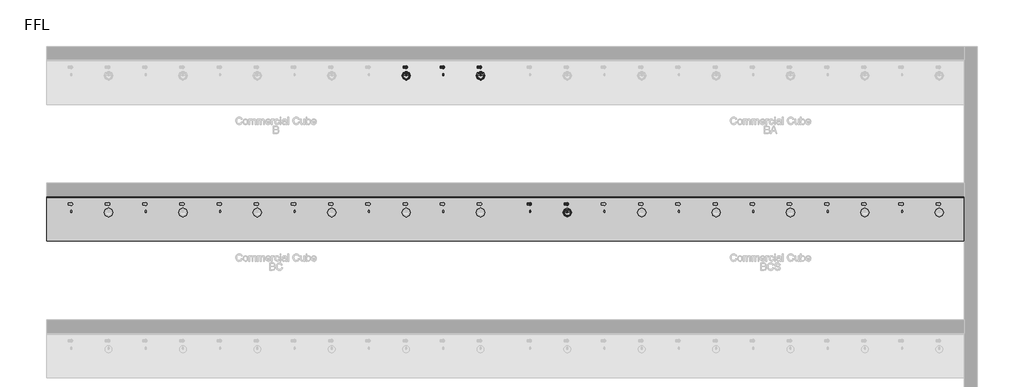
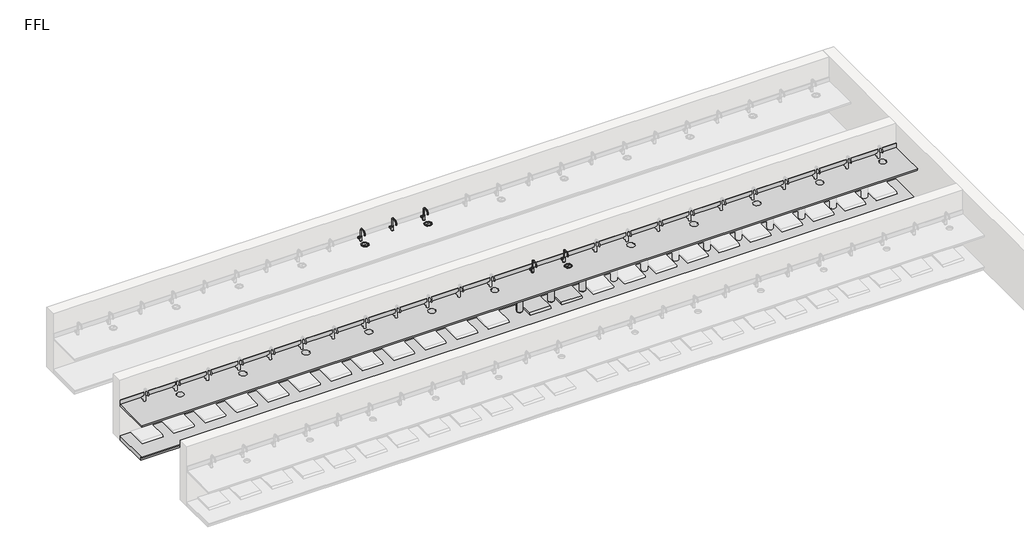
# One storey, part 6 of 14: 16 flow terminals, 2 furniture elements.
"""IFC4 building model written with IfcOpenShell, lengths in millimetres."""

from ifc_helpers import new_model, si_unit, frame, origin, place, context, project, spatial, polyline, circle_curve, transform, mapped, element, save
from ifc_brep_helpers import plane_surface, revolved_surface, advanced_brep
from components import flow_terminal_100_people_gold_0dc622b1, bcs_and_bc_6de74493, bright_chrome_cb32e6d9, bright_chrome_743c02cf, co2_gas_cylinder_20234e14, generic_plinth_900mm_f287d53f

model = new_model("IFC4")

# Units and contexts
model_context = context("Model", 3, world=origin())
ifc_project = project(units=[si_unit("LENGTHUNIT", "METRE", prefix="MILLI")], contexts=[model_context])

# Site, building, storey
site = spatial("IfcSite", under=ifc_project)
building = spatial("IfcBuilding", under=site)
storey = spatial("IfcBuildingStorey", under=building, Name="FFL", Elevation=0.0)

# Flow terminals
placement = place(None, origin())
flow_terminal_100_people_gold_shape = flow_terminal_100_people_gold_0dc622b1(model_context)
element("IfcFlowTerminal", 1, ObjectType="PlumFixt_Zip Commercial_Cube_B : 100 People - Nickel", at=placement, inside=storey, context=model_context, shape_type="MappedRepresentation", body=[
    mapped(flow_terminal_100_people_gold_shape, transform((279.2647071, 7582.7393304, 0.0), x_axis=(1.0, 0.0, 0.0), y_axis=(0.0, 1.0, 0.0), z_axis=(0.0, 0.0, 1.0))),
])
element("IfcFlowTerminal", 2, ObjectType="PlumFixt_Zip Commercial_Cube_B : 100 People - Platinum", at=placement, inside=storey, context=model_context, shape_type="MappedRepresentation", body=[
    mapped(flow_terminal_100_people_gold_shape, transform((1029.2647071, 7582.7393304, 0.0), x_axis=(1.0, 0.0, 0.0), y_axis=(0.0, 1.0, 0.0), z_axis=(0.0, 0.0, 1.0))),
])
element("IfcFlowTerminal", 3, ObjectType="PlumFixt_Zip Commercial_Cube_B : 100 People - Rose Gold", at=placement, inside=storey, context=model_context, shape_type="MappedRepresentation", body=[
    mapped(flow_terminal_100_people_gold_shape, transform((1779.2647071, 7582.7393304, 0.0), x_axis=(1.0, 0.0, 0.0), y_axis=(0.0, 1.0, 0.0), z_axis=(0.0, 0.0, 1.0))),
])
bcs_and_bc_shape = bcs_and_bc_6de74493(model_context)
element("IfcFlowTerminal", 4, ObjectType="z_PlumFixt_Zip_Vent Tray : BCS and BC", at=placement, inside=storey, context=model_context, shape_type="MappedRepresentation", body=[
    mapped(bcs_and_bc_shape, transform((2779.2647071, 4945.7393304, 100.0), x_axis=(1.0, 0.0, 0.0), y_axis=(0.0, 1.0, 0.0), z_axis=(0.0, 0.0, 1.0))),
])
element("IfcFlowTerminal", 5, ObjectType="z_PlumFixt_Zip_Vent Tray : BCS and BC", at=placement, inside=storey, context=model_context, shape_type="MappedRepresentation", body=[
    mapped(bcs_and_bc_shape, transform((3529.2647071, 4945.7393304, 100.0), x_axis=(1.0, 0.0, 0.0), y_axis=(0.0, 1.0, 0.0), z_axis=(0.0, 0.0, 1.0))),
])
bright_chrome_shape = bright_chrome_cb32e6d9(model_context)
element("IfcFlowTerminal", 6, ObjectType="z_PlumFixt_Zip_Cube : Bright Chrome", at=placement, inside=storey, context=model_context, shape_type="MappedRepresentation", body=[
    mapped(bright_chrome_shape, transform((2762.2647071, 4850.7393304, 900.0), x_axis=(1.0000000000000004, 0.0, 0.0), y_axis=(0.0, 1.0000000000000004, 0.0), z_axis=(0.0, 0.0, 1.0))),
])
bright_chrome_2_shape = bright_chrome_743c02cf(model_context)
element("IfcFlowTerminal", 7, ObjectType="z_PlumFixt_Zip_Font : Brushed Chrome", at=placement, inside=storey, context=model_context, shape_type="MappedRepresentation", body=[
    mapped(bright_chrome_2_shape, transform((279.2647071, 7511.2393304, 900.0), x_axis=(1.0000000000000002, 0.0, 0.0), y_axis=(0.0, 1.0000000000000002, 0.0), z_axis=(0.0, 0.0, 1.0))),
])
element("IfcFlowTerminal", 8, ObjectType="z_PlumFixt_Zip_Font : Brushed Chrome", at=placement, inside=storey, context=model_context, shape_type="MappedRepresentation", body=[
    mapped(bright_chrome_2_shape, transform((1779.2647071, 7511.2393304, 900.0), x_axis=(1.0000000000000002, 0.0, 0.0), y_axis=(0.0, 1.0000000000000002, 0.0), z_axis=(0.0, 0.0, 1.0))),
])
element("IfcFlowTerminal", 9, ObjectType="z_PlumFixt_Zip_Font : Brushed Chrome", at=placement, inside=storey, context=model_context, shape_type="MappedRepresentation", body=[
    mapped(bright_chrome_2_shape, transform((3529.2647071, 4751.2393304, 900.0), x_axis=(1.0000000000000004, 0.0, 0.0), y_axis=(0.0, 1.0000000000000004, 0.0), z_axis=(0.0, 0.0, 1.0))),
])
element("IfcFlowTerminal", 10, ObjectType="z_PlumFixt_Zip_Cube : Brushed Chrome", at=placement, inside=storey, context=model_context, shape_type="MappedRepresentation", body=[
    mapped(bright_chrome_shape, transform((3512.2647071, 4850.7393304, 900.0), x_axis=(1.0000000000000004, 0.0, 0.0), y_axis=(0.0, 1.0000000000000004, 0.0), z_axis=(0.0, 0.0, 1.0))),
])
co2_gas_cylinder_shape = co2_gas_cylinder_20234e14(model_context)
element("IfcFlowTerminal", 11, ObjectType="z_PlumFixt_Zip_CO2 Gas Cylinder : CO2 Gas Cylinder", at=placement, inside=storey, context=model_context, shape_type="MappedRepresentation", body=[
    mapped(co2_gas_cylinder_shape, transform((2412.2647071, 4750.7393304, 100.0), x_axis=(-1.0, 0.0, 0.0), y_axis=(0.0, -1.0, 0.0), z_axis=(0.0, 0.0, 1.0))),
])
element("IfcFlowTerminal", 12, ObjectType="z_PlumFixt_Zip_CO2 Gas Cylinder : CO2 Gas Cylinder", at=placement, inside=storey, context=model_context, shape_type="MappedRepresentation", body=[
    mapped(co2_gas_cylinder_shape, transform((3162.2647071, 4750.7393304, 100.0), x_axis=(-1.0, 0.0, 0.0), y_axis=(0.0, -1.0, 0.0), z_axis=(0.0, 0.0, 1.0))),
])
element("IfcFlowTerminal", 13, ObjectType="z_PlumFixt_Zip_CO2 Gas Cylinder : CO2 Gas Cylinder", at=placement, inside=storey, context=model_context, shape_type="MappedRepresentation", body=[
    mapped(co2_gas_cylinder_shape, transform((3912.2647071, 4750.7393304, 100.0), x_axis=(-1.0, 0.0, 0.0), y_axis=(0.0, -1.0, 0.0), z_axis=(0.0, 0.0, 1.0))),
])
element("IfcFlowTerminal", 14, ObjectType="z_PlumFixt_Zip_Cube : Nickel", at=placement, inside=storey, context=model_context, shape_type="MappedRepresentation", body=[
    mapped(bright_chrome_shape, transform((262.2647071, 7610.7393304, 900.0), x_axis=(1.0000000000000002, 0.0, 0.0), y_axis=(0.0, 1.0000000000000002, 0.0), z_axis=(0.0, 0.0, 1.0))),
])
element("IfcFlowTerminal", 15, ObjectType="z_PlumFixt_Zip_Cube : Platinum", at=placement, inside=storey, context=model_context, shape_type="MappedRepresentation", body=[
    mapped(bright_chrome_shape, transform((1012.2647071, 7610.7393304, 900.0), x_axis=(1.0000000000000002, 0.0, 0.0), y_axis=(0.0, 1.0000000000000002, 0.0), z_axis=(0.0, 0.0, 1.0))),
])
element("IfcFlowTerminal", 16, ObjectType="z_PlumFixt_Zip_Cube : Rose Gold", at=placement, inside=storey, context=model_context, shape_type="MappedRepresentation", body=[
    mapped(bright_chrome_shape, transform((1762.2647071, 7610.7393304, 900.0), x_axis=(1.0000000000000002, 0.0, 0.0), y_axis=(0.0, 1.0000000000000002, 0.0), z_axis=(0.0, 0.0, 1.0))),
])

# Furniture
element("IfcFurniture", 17, ObjectType="Counter Top : 900mm Depth", at=placement, inside=storey, context=model_context, shape_type="AdvancedBrep", body=[
    advanced_brep(
    [(-6969.7352929, 4188.2393304, 900.0), (11530.2647071, 4188.2393304, 900.0), (11530.2647071, 5069.1893304, 900.0), (-6969.7352929, 5069.1893304, 900.0), (11006.2647071, 4938.2393304, 900.0), (11054.2647071, 4938.2393304, 900.0), (10962.0647071, 4766.2393304, 900.0), (11098.4647071, 4766.2393304, 900.0), (10256.2647071, 4938.2393304, 900.0), (10304.2647071, 4938.2393304, 900.0), (9506.2647071, 4938.2393304, 900.0), (9554.2647071, 4938.2393304, 900.0), (9462.0647071, 4766.2393304, 900.0), (9598.4647071, 4766.2393304, 900.0), (8756.2647071, 4938.2393304, 900.0), (8804.2647071, 4938.2393304, 900.0), (8006.2647071, 4938.2393304, 900.0), (8054.2647071, 4938.2393304, 900.0), (7962.0647071, 4766.2393304, 900.0), (8098.4647071, 4766.2393304, 900.0), (7256.2647071, 4938.2393304, 900.0), (7304.2647071, 4938.2393304, 900.0), (6506.2647071, 4938.2393304, 900.0), (6554.2647071, 4938.2393304, 900.0), (6462.0647071, 4766.2393304, 900.0), (6598.4647071, 4766.2393304, 900.0), (5756.2647071, 4938.2393304, 900.0), (5804.2647071, 4938.2393304, 900.0), (5006.2647071, 4938.2393304, 900.0), (5054.2647071, 4938.2393304, 900.0), (4962.0647071, 4766.2393304, 900.0), (5098.4647071, 4766.2393304, 900.0), (4256.2647071, 4938.2393304, 900.0), (4304.2647071, 4938.2393304, 900.0), (3506.2647071, 4938.2393304, 900.0), (3554.2647071, 4938.2393304, 900.0), (3462.0647071, 4766.2393304, 900.0), (3598.4647071, 4766.2393304, 900.0), (2756.2647071, 4938.2393304, 900.0), (2804.2647071, 4938.2393304, 900.0), (1756.2647071, 4938.2393304, 900.0), (1804.2647071, 4938.2393304, 900.0), (1712.0647071, 4766.2393304, 900.0), (1848.4647071, 4766.2393304, 900.0), (1006.2647071, 4938.2393304, 900.0), (1054.2647071, 4938.2393304, 900.0), (256.2647071, 4938.2393304, 900.0), (304.2647071, 4938.2393304, 900.0), (212.0647071, 4766.2393304, 900.0), (348.4647071, 4766.2393304, 900.0), (-493.7352929, 4938.2393304, 900.0), (-445.7352929, 4938.2393304, 900.0), (-1243.7352929, 4938.2393304, 900.0), (-1195.7352929, 4938.2393304, 900.0), (-1287.9352929, 4766.2393304, 900.0), (-1151.5352929, 4766.2393304, 900.0), (-1993.7352929, 4938.2393304, 900.0), (-1945.7352929, 4938.2393304, 900.0), (-2743.7352929, 4938.2393304, 900.0), (-2695.7352929, 4938.2393304, 900.0), (-2787.9352929, 4766.2393304, 900.0), (-2651.5352929, 4766.2393304, 900.0), (-3493.7352929, 4938.2393304, 900.0), (-3445.7352929, 4938.2393304, 900.0), (-4243.7352929, 4938.2393304, 900.0), (-4195.7352929, 4938.2393304, 900.0), (-4287.9352929, 4766.2393304, 900.0), (-4151.5352929, 4766.2393304, 900.0), (-4993.7352929, 4938.2393304, 900.0), (-4945.7352929, 4938.2393304, 900.0), (-5743.7352929, 4938.2393304, 900.0), (-5695.7352929, 4938.2393304, 900.0), (-5787.9352929, 4766.2393304, 900.0), (-5651.5352929, 4766.2393304, 900.0), (-6493.7352929, 4938.2393304, 900.0), (-6445.7352929, 4938.2393304, 900.0), (11530.2647071, 5088.2393304, 860.0), (11530.2647071, 4188.2393304, 860.0), (-6969.7352929, 4188.2393304, 860.0), (-6969.7352929, 5088.2393304, 860.0), (11054.2647071, 4938.2393304, 860.0), (11006.2647071, 4938.2393304, 860.0), (11098.4647071, 4766.2393304, 860.0), (10962.0647071, 4766.2393304, 860.0), (10304.2647071, 4938.2393304, 860.0), (10256.2647071, 4938.2393304, 860.0), (9554.2647071, 4938.2393304, 860.0), (9506.2647071, 4938.2393304, 860.0), (9598.4647071, 4766.2393304, 860.0), (9462.0647071, 4766.2393304, 860.0), (8804.2647071, 4938.2393304, 860.0), (8756.2647071, 4938.2393304, 860.0), (8054.2647071, 4938.2393304, 860.0), (8006.2647071, 4938.2393304, 860.0), (8098.4647071, 4766.2393304, 860.0), (7962.0647071, 4766.2393304, 860.0), (7304.2647071, 4938.2393304, 860.0), (7256.2647071, 4938.2393304, 860.0), (6554.2647071, 4938.2393304, 860.0), (6506.2647071, 4938.2393304, 860.0), (6598.4647071, 4766.2393304, 860.0), (6462.0647071, 4766.2393304, 860.0), (5804.2647071, 4938.2393304, 860.0), (5756.2647071, 4938.2393304, 860.0), (5054.2647071, 4938.2393304, 860.0), (5006.2647071, 4938.2393304, 860.0), (5098.4647071, 4766.2393304, 860.0), (4962.0647071, 4766.2393304, 860.0), (4304.2647071, 4938.2393304, 860.0), (4256.2647071, 4938.2393304, 860.0), (3554.2647071, 4938.2393304, 860.0), (3506.2647071, 4938.2393304, 860.0), (3598.4647071, 4766.2393304, 860.0), (3462.0647071, 4766.2393304, 860.0), (2804.2647071, 4938.2393304, 860.0), (2756.2647071, 4938.2393304, 860.0), (1804.2647071, 4938.2393304, 860.0), (1756.2647071, 4938.2393304, 860.0), (1848.4647071, 4766.2393304, 860.0), (1712.0647071, 4766.2393304, 860.0), (1054.2647071, 4938.2393304, 860.0), (1006.2647071, 4938.2393304, 860.0), (304.2647071, 4938.2393304, 860.0), (256.2647071, 4938.2393304, 860.0), (348.4647071, 4766.2393304, 860.0), (212.0647071, 4766.2393304, 860.0), (-445.7352929, 4938.2393304, 860.0), (-493.7352929, 4938.2393304, 860.0), (-1195.7352929, 4938.2393304, 860.0), (-1243.7352929, 4938.2393304, 860.0), (-1151.5352929, 4766.2393304, 860.0), (-1287.9352929, 4766.2393304, 860.0), (-1945.7352929, 4938.2393304, 860.0), (-1993.7352929, 4938.2393304, 860.0), (-2695.7352929, 4938.2393304, 860.0), (-2743.7352929, 4938.2393304, 860.0), (-2651.5352929, 4766.2393304, 860.0), (-2787.9352929, 4766.2393304, 860.0), (-3445.7352929, 4938.2393304, 860.0), (-3493.7352929, 4938.2393304, 860.0), (-4195.7352929, 4938.2393304, 860.0), (-4243.7352929, 4938.2393304, 860.0), (-4151.5352929, 4766.2393304, 860.0), (-4287.9352929, 4766.2393304, 860.0), (-4945.7352929, 4938.2393304, 860.0), (-4993.7352929, 4938.2393304, 860.0), (-5695.7352929, 4938.2393304, 860.0), (-5743.7352929, 4938.2393304, 860.0), (-5651.5352929, 4766.2393304, 860.0), (-5787.9352929, 4766.2393304, 860.0), (-6445.7352929, 4938.2393304, 860.0), (-6493.7352929, 4938.2393304, 860.0), (-6969.7352929, 5088.2393304, 1001.6), (11530.2647071, 5088.2393304, 1001.6), (-6969.7352929, 5069.1893304, 1001.6), (11530.2647071, 5069.1893304, 1001.6)],
    [
        (0, 1),
        (1, 2),
        (2, 3),
        (3, 0),
        (4, 5, circle_curve(frame((11030.2647071, 4938.2393304, 900.0), z_axis=(0.0, 0.0, -1.0), x_axis=(-1.0000000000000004, 0.0, 0.0)), 24.0)),
        (5, 4, circle_curve(frame((11030.2647071, 4938.2393304, 900.0), z_axis=(0.0, 0.0, -1.0), x_axis=(-1.0000000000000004, 0.0, 0.0)), 24.0)),
        (6, 7, circle_curve(frame((11030.2647071, 4766.2393304, 900.0), z_axis=(0.0, 0.0, -1.0), x_axis=(-1.0000000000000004, 0.0, 0.0)), 68.2)),
        (7, 6, circle_curve(frame((11030.2647071, 4766.2393304, 900.0), z_axis=(0.0, 0.0, -1.0), x_axis=(-1.0000000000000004, 0.0, 0.0)), 68.2)),
        (8, 9, circle_curve(frame((10280.2647071, 4938.2393304, 900.0), z_axis=(0.0, 0.0, -1.0), x_axis=(-1.0000000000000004, 0.0, 0.0)), 24.0)),
        (9, 8, circle_curve(frame((10280.2647071, 4938.2393304, 900.0), z_axis=(0.0, 0.0, -1.0), x_axis=(-1.0000000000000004, 0.0, 0.0)), 24.0)),
        (10, 11, circle_curve(frame((9530.2647071, 4938.2393304, 900.0), z_axis=(0.0, 0.0, -1.0), x_axis=(-1.0000000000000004, 0.0, 0.0)), 24.0)),
        (11, 10, circle_curve(frame((9530.2647071, 4938.2393304, 900.0), z_axis=(0.0, 0.0, -1.0), x_axis=(-1.0000000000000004, 0.0, 0.0)), 24.0)),
        (12, 13, circle_curve(frame((9530.2647071, 4766.2393304, 900.0), z_axis=(0.0, 0.0, -1.0), x_axis=(-1.0000000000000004, 0.0, 0.0)), 68.2)),
        (13, 12, circle_curve(frame((9530.2647071, 4766.2393304, 900.0), z_axis=(0.0, 0.0, -1.0), x_axis=(-1.0000000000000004, 0.0, 0.0)), 68.2)),
        (14, 15, circle_curve(frame((8780.2647071, 4938.2393304, 900.0), z_axis=(0.0, 0.0, -1.0), x_axis=(-1.0000000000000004, 0.0, 0.0)), 24.0)),
        (15, 14, circle_curve(frame((8780.2647071, 4938.2393304, 900.0), z_axis=(0.0, 0.0, -1.0), x_axis=(-1.0000000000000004, 0.0, 0.0)), 24.0)),
        (16, 17, circle_curve(frame((8030.2647071, 4938.2393304, 900.0), z_axis=(0.0, 0.0, -1.0), x_axis=(-1.0000000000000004, 0.0, 0.0)), 24.0)),
        (17, 16, circle_curve(frame((8030.2647071, 4938.2393304, 900.0), z_axis=(0.0, 0.0, -1.0), x_axis=(-1.0000000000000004, 0.0, 0.0)), 24.0)),
        (18, 19, circle_curve(frame((8030.2647071, 4766.2393304, 900.0), z_axis=(0.0, 0.0, -1.0), x_axis=(-1.0000000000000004, 0.0, 0.0)), 68.2)),
        (19, 18, circle_curve(frame((8030.2647071, 4766.2393304, 900.0), z_axis=(0.0, 0.0, -1.0), x_axis=(-1.0000000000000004, 0.0, 0.0)), 68.2)),
        (20, 21, circle_curve(frame((7280.2647071, 4938.2393304, 900.0), z_axis=(0.0, 0.0, -1.0), x_axis=(-1.0000000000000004, 0.0, 0.0)), 24.0)),
        (21, 20, circle_curve(frame((7280.2647071, 4938.2393304, 900.0), z_axis=(0.0, 0.0, -1.0), x_axis=(-1.0000000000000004, 0.0, 0.0)), 24.0)),
        (22, 23, circle_curve(frame((6530.2647071, 4938.2393304, 900.0), z_axis=(0.0, 0.0, -1.0), x_axis=(-1.0000000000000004, 0.0, 0.0)), 24.0)),
        (23, 22, circle_curve(frame((6530.2647071, 4938.2393304, 900.0), z_axis=(0.0, 0.0, -1.0), x_axis=(-1.0000000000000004, 0.0, 0.0)), 24.0)),
        (24, 25, circle_curve(frame((6530.2647071, 4766.2393304, 900.0), z_axis=(0.0, 0.0, -1.0), x_axis=(-1.0000000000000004, 0.0, 0.0)), 68.2)),
        (25, 24, circle_curve(frame((6530.2647071, 4766.2393304, 900.0), z_axis=(0.0, 0.0, -1.0), x_axis=(-1.0000000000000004, 0.0, 0.0)), 68.2)),
        (26, 27, circle_curve(frame((5780.2647071, 4938.2393304, 900.0), z_axis=(0.0, 0.0, -1.0), x_axis=(-1.0000000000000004, 0.0, 0.0)), 24.0)),
        (27, 26, circle_curve(frame((5780.2647071, 4938.2393304, 900.0), z_axis=(0.0, 0.0, -1.0), x_axis=(-1.0000000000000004, 0.0, 0.0)), 24.0)),
        (28, 29, circle_curve(frame((5030.2647071, 4938.2393304, 900.0), z_axis=(0.0, 0.0, -1.0), x_axis=(-1.0000000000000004, 0.0, 0.0)), 24.0)),
        (29, 28, circle_curve(frame((5030.2647071, 4938.2393304, 900.0), z_axis=(0.0, 0.0, -1.0), x_axis=(-1.0000000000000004, 0.0, 0.0)), 24.0)),
        (30, 31, circle_curve(frame((5030.2647071, 4766.2393304, 900.0), z_axis=(0.0, 0.0, -1.0), x_axis=(-1.0000000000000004, 0.0, 0.0)), 68.2)),
        (31, 30, circle_curve(frame((5030.2647071, 4766.2393304, 900.0), z_axis=(0.0, 0.0, -1.0), x_axis=(-1.0000000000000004, 0.0, 0.0)), 68.2)),
        (32, 33, circle_curve(frame((4280.2647071, 4938.2393304, 900.0), z_axis=(0.0, 0.0, -1.0), x_axis=(-1.0000000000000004, 0.0, 0.0)), 24.0)),
        (33, 32, circle_curve(frame((4280.2647071, 4938.2393304, 900.0), z_axis=(0.0, 0.0, -1.0), x_axis=(-1.0000000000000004, 0.0, 0.0)), 24.0)),
        (34, 35, circle_curve(frame((3530.2647071, 4938.2393304, 900.0), z_axis=(0.0, 0.0, -1.0), x_axis=(-1.0000000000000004, 0.0, 0.0)), 24.0)),
        (35, 34, circle_curve(frame((3530.2647071, 4938.2393304, 900.0), z_axis=(0.0, 0.0, -1.0), x_axis=(-1.0000000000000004, 0.0, 0.0)), 24.0)),
        (36, 37, circle_curve(frame((3530.2647071, 4766.2393304, 900.0), z_axis=(0.0, 0.0, -1.0), x_axis=(-1.0000000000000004, 0.0, 0.0)), 68.2)),
        (37, 36, circle_curve(frame((3530.2647071, 4766.2393304, 900.0), z_axis=(0.0, 0.0, -1.0), x_axis=(-1.0000000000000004, 0.0, 0.0)), 68.2)),
        (38, 39, circle_curve(frame((2780.2647071, 4938.2393304, 900.0), z_axis=(0.0, 0.0, -1.0), x_axis=(-1.0000000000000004, 0.0, 0.0)), 24.0)),
        (39, 38, circle_curve(frame((2780.2647071, 4938.2393304, 900.0), z_axis=(0.0, 0.0, -1.0), x_axis=(-1.0000000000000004, 0.0, 0.0)), 24.0)),
        (40, 41, circle_curve(frame((1780.2647071, 4938.2393304, 900.0), z_axis=(0.0, 0.0, -1.0), x_axis=(-1.0000000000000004, 0.0, 0.0)), 24.0)),
        (41, 40, circle_curve(frame((1780.2647071, 4938.2393304, 900.0), z_axis=(0.0, 0.0, -1.0), x_axis=(-1.0000000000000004, 0.0, 0.0)), 24.0)),
        (42, 43, circle_curve(frame((1780.2647071, 4766.2393304, 900.0), z_axis=(0.0, 0.0, -1.0), x_axis=(-1.0000000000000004, 0.0, 0.0)), 68.2)),
        (43, 42, circle_curve(frame((1780.2647071, 4766.2393304, 900.0), z_axis=(0.0, 0.0, -1.0), x_axis=(-1.0000000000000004, 0.0, 0.0)), 68.2)),
        (44, 45, circle_curve(frame((1030.2647071, 4938.2393304, 900.0), z_axis=(0.0, 0.0, -1.0), x_axis=(-1.0000000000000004, 0.0, 0.0)), 24.0)),
        (45, 44, circle_curve(frame((1030.2647071, 4938.2393304, 900.0), z_axis=(0.0, 0.0, -1.0), x_axis=(-1.0000000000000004, 0.0, 0.0)), 24.0)),
        (46, 47, circle_curve(frame((280.2647071, 4938.2393304, 900.0), z_axis=(0.0, 0.0, -1.0), x_axis=(-1.0000000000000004, 0.0, 0.0)), 24.0)),
        (47, 46, circle_curve(frame((280.2647071, 4938.2393304, 900.0), z_axis=(0.0, 0.0, -1.0), x_axis=(-1.0000000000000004, 0.0, 0.0)), 24.0)),
        (48, 49, circle_curve(frame((280.2647071, 4766.2393304, 900.0), z_axis=(0.0, 0.0, -1.0), x_axis=(-1.0000000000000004, 0.0, 0.0)), 68.2)),
        (49, 48, circle_curve(frame((280.2647071, 4766.2393304, 900.0), z_axis=(0.0, 0.0, -1.0), x_axis=(-1.0000000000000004, 0.0, 0.0)), 68.2)),
        (50, 51, circle_curve(frame((-469.7352929, 4938.2393304, 900.0), z_axis=(0.0, 0.0, -1.0), x_axis=(-1.0000000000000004, 0.0, 0.0)), 24.0)),
        (51, 50, circle_curve(frame((-469.7352929, 4938.2393304, 900.0), z_axis=(0.0, 0.0, -1.0), x_axis=(-1.0000000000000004, 0.0, 0.0)), 24.0)),
        (52, 53, circle_curve(frame((-1219.7352929, 4938.2393304, 900.0), z_axis=(0.0, 0.0, -1.0), x_axis=(-1.0000000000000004, 0.0, 0.0)), 24.0)),
        (53, 52, circle_curve(frame((-1219.7352929, 4938.2393304, 900.0), z_axis=(0.0, 0.0, -1.0), x_axis=(-1.0000000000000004, 0.0, 0.0)), 24.0)),
        (54, 55, circle_curve(frame((-1219.7352929, 4766.2393304, 900.0), z_axis=(0.0, 0.0, -1.0), x_axis=(-1.0000000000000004, 0.0, 0.0)), 68.2)),
        (55, 54, circle_curve(frame((-1219.7352929, 4766.2393304, 900.0), z_axis=(0.0, 0.0, -1.0), x_axis=(-1.0000000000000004, 0.0, 0.0)), 68.2)),
        (56, 57, circle_curve(frame((-1969.7352929, 4938.2393304, 900.0), z_axis=(0.0, 0.0, -1.0), x_axis=(-1.0000000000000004, 0.0, 0.0)), 24.0)),
        (57, 56, circle_curve(frame((-1969.7352929, 4938.2393304, 900.0), z_axis=(0.0, 0.0, -1.0), x_axis=(-1.0000000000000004, 0.0, 0.0)), 24.0)),
        (58, 59, circle_curve(frame((-2719.7352929, 4938.2393304, 900.0), z_axis=(0.0, 0.0, -1.0), x_axis=(-1.0000000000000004, 0.0, 0.0)), 24.0)),
        (59, 58, circle_curve(frame((-2719.7352929, 4938.2393304, 900.0), z_axis=(0.0, 0.0, -1.0), x_axis=(-1.0000000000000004, 0.0, 0.0)), 24.0)),
        (60, 61, circle_curve(frame((-2719.7352929, 4766.2393304, 900.0), z_axis=(0.0, 0.0, -1.0), x_axis=(-1.0000000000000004, 0.0, 0.0)), 68.2)),
        (61, 60, circle_curve(frame((-2719.7352929, 4766.2393304, 900.0), z_axis=(0.0, 0.0, -1.0), x_axis=(-1.0000000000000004, 0.0, 0.0)), 68.2)),
        (62, 63, circle_curve(frame((-3469.7352929, 4938.2393304, 900.0), z_axis=(0.0, 0.0, -1.0), x_axis=(-1.0000000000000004, 0.0, 0.0)), 24.0)),
        (63, 62, circle_curve(frame((-3469.7352929, 4938.2393304, 900.0), z_axis=(0.0, 0.0, -1.0), x_axis=(-1.0000000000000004, 0.0, 0.0)), 24.0)),
        (64, 65, circle_curve(frame((-4219.7352929, 4938.2393304, 900.0), z_axis=(0.0, 0.0, -1.0), x_axis=(-1.0000000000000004, 0.0, 0.0)), 24.0)),
        (65, 64, circle_curve(frame((-4219.7352929, 4938.2393304, 900.0), z_axis=(0.0, 0.0, -1.0), x_axis=(-1.0000000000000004, 0.0, 0.0)), 24.0)),
        (66, 67, circle_curve(frame((-4219.7352929, 4766.2393304, 900.0), z_axis=(0.0, 0.0, -1.0), x_axis=(-1.0000000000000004, 0.0, 0.0)), 68.2)),
        (67, 66, circle_curve(frame((-4219.7352929, 4766.2393304, 900.0), z_axis=(0.0, 0.0, -1.0), x_axis=(-1.0000000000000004, 0.0, 0.0)), 68.2)),
        (68, 69, circle_curve(frame((-4969.7352929, 4938.2393304, 900.0), z_axis=(0.0, 0.0, -1.0), x_axis=(-1.0000000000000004, 0.0, 0.0)), 24.0)),
        (69, 68, circle_curve(frame((-4969.7352929, 4938.2393304, 900.0), z_axis=(0.0, 0.0, -1.0), x_axis=(-1.0000000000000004, 0.0, 0.0)), 24.0)),
        (70, 71, circle_curve(frame((-5719.7352929, 4938.2393304, 900.0), z_axis=(0.0, 0.0, -1.0), x_axis=(-1.0000000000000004, 0.0, 0.0)), 24.0)),
        (71, 70, circle_curve(frame((-5719.7352929, 4938.2393304, 900.0), z_axis=(0.0, 0.0, -1.0), x_axis=(-1.0000000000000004, 0.0, 0.0)), 24.0)),
        (72, 73, circle_curve(frame((-5719.7352929, 4766.2393304, 900.0), z_axis=(0.0, 0.0, -1.0), x_axis=(-1.0000000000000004, 0.0, 0.0)), 68.2)),
        (73, 72, circle_curve(frame((-5719.7352929, 4766.2393304, 900.0), z_axis=(0.0, 0.0, -1.0), x_axis=(-1.0000000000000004, 0.0, 0.0)), 68.2)),
        (74, 75, circle_curve(frame((-6469.7352929, 4938.2393304, 900.0), z_axis=(0.0, 0.0, -1.0), x_axis=(-1.0000000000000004, 0.0, 0.0)), 24.0)),
        (75, 74, circle_curve(frame((-6469.7352929, 4938.2393304, 900.0), z_axis=(0.0, 0.0, -1.0), x_axis=(-1.0000000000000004, 0.0, 0.0)), 24.0)),
        (76, 77),
        (77, 78),
        (78, 79),
        (79, 76),
        (80, 81, circle_curve(frame((11030.2647071, 4938.2393304, 860.0), z_axis=(0.0, 0.0, 1.0), x_axis=(-1.0000000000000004, 0.0, 0.0)), 24.0)),
        (81, 80, circle_curve(frame((11030.2647071, 4938.2393304, 860.0), z_axis=(0.0, 0.0, 1.0), x_axis=(-1.0000000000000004, 0.0, 0.0)), 24.0)),
        (82, 83, circle_curve(frame((11030.2647071, 4766.2393304, 860.0), z_axis=(0.0, 0.0, 1.0), x_axis=(-1.0000000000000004, 0.0, 0.0)), 68.2)),
        (83, 82, circle_curve(frame((11030.2647071, 4766.2393304, 860.0), z_axis=(0.0, 0.0, 1.0), x_axis=(-1.0000000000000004, 0.0, 0.0)), 68.2)),
        (84, 85, circle_curve(frame((10280.2647071, 4938.2393304, 860.0), z_axis=(0.0, 0.0, 1.0), x_axis=(-1.0000000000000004, 0.0, 0.0)), 24.0)),
        (85, 84, circle_curve(frame((10280.2647071, 4938.2393304, 860.0), z_axis=(0.0, 0.0, 1.0), x_axis=(-1.0000000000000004, 0.0, 0.0)), 24.0)),
        (86, 87, circle_curve(frame((9530.2647071, 4938.2393304, 860.0), z_axis=(0.0, 0.0, 1.0), x_axis=(-1.0000000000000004, 0.0, 0.0)), 24.0)),
        (87, 86, circle_curve(frame((9530.2647071, 4938.2393304, 860.0), z_axis=(0.0, 0.0, 1.0), x_axis=(-1.0000000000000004, 0.0, 0.0)), 24.0)),
        (88, 89, circle_curve(frame((9530.2647071, 4766.2393304, 860.0), z_axis=(0.0, 0.0, 1.0), x_axis=(-1.0000000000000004, 0.0, 0.0)), 68.2)),
        (89, 88, circle_curve(frame((9530.2647071, 4766.2393304, 860.0), z_axis=(0.0, 0.0, 1.0), x_axis=(-1.0000000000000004, 0.0, 0.0)), 68.2)),
        (90, 91, circle_curve(frame((8780.2647071, 4938.2393304, 860.0), z_axis=(0.0, 0.0, 1.0), x_axis=(-1.0000000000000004, 0.0, 0.0)), 24.0)),
        (91, 90, circle_curve(frame((8780.2647071, 4938.2393304, 860.0), z_axis=(0.0, 0.0, 1.0), x_axis=(-1.0000000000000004, 0.0, 0.0)), 24.0)),
        (92, 93, circle_curve(frame((8030.2647071, 4938.2393304, 860.0), z_axis=(0.0, 0.0, 1.0), x_axis=(-1.0000000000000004, 0.0, 0.0)), 24.0)),
        (93, 92, circle_curve(frame((8030.2647071, 4938.2393304, 860.0), z_axis=(0.0, 0.0, 1.0), x_axis=(-1.0000000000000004, 0.0, 0.0)), 24.0)),
        (94, 95, circle_curve(frame((8030.2647071, 4766.2393304, 860.0), z_axis=(0.0, 0.0, 1.0), x_axis=(-1.0000000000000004, 0.0, 0.0)), 68.2)),
        (95, 94, circle_curve(frame((8030.2647071, 4766.2393304, 860.0), z_axis=(0.0, 0.0, 1.0), x_axis=(-1.0000000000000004, 0.0, 0.0)), 68.2)),
        (96, 97, circle_curve(frame((7280.2647071, 4938.2393304, 860.0), z_axis=(0.0, 0.0, 1.0), x_axis=(-1.0000000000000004, 0.0, 0.0)), 24.0)),
        (97, 96, circle_curve(frame((7280.2647071, 4938.2393304, 860.0), z_axis=(0.0, 0.0, 1.0), x_axis=(-1.0000000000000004, 0.0, 0.0)), 24.0)),
        (98, 99, circle_curve(frame((6530.2647071, 4938.2393304, 860.0), z_axis=(0.0, 0.0, 1.0), x_axis=(-1.0000000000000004, 0.0, 0.0)), 24.0)),
        (99, 98, circle_curve(frame((6530.2647071, 4938.2393304, 860.0), z_axis=(0.0, 0.0, 1.0), x_axis=(-1.0000000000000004, 0.0, 0.0)), 24.0)),
        (100, 101, circle_curve(frame((6530.2647071, 4766.2393304, 860.0), z_axis=(0.0, 0.0, 1.0), x_axis=(-1.0000000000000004, 0.0, 0.0)), 68.2)),
        (101, 100, circle_curve(frame((6530.2647071, 4766.2393304, 860.0), z_axis=(0.0, 0.0, 1.0), x_axis=(-1.0000000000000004, 0.0, 0.0)), 68.2)),
        (102, 103, circle_curve(frame((5780.2647071, 4938.2393304, 860.0), z_axis=(0.0, 0.0, 1.0), x_axis=(-1.0000000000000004, 0.0, 0.0)), 24.0)),
        (103, 102, circle_curve(frame((5780.2647071, 4938.2393304, 860.0), z_axis=(0.0, 0.0, 1.0), x_axis=(-1.0000000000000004, 0.0, 0.0)), 24.0)),
        (104, 105, circle_curve(frame((5030.2647071, 4938.2393304, 860.0), z_axis=(0.0, 0.0, 1.0), x_axis=(-1.0000000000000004, 0.0, 0.0)), 24.0)),
        (105, 104, circle_curve(frame((5030.2647071, 4938.2393304, 860.0), z_axis=(0.0, 0.0, 1.0), x_axis=(-1.0000000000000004, 0.0, 0.0)), 24.0)),
        (106, 107, circle_curve(frame((5030.2647071, 4766.2393304, 860.0), z_axis=(0.0, 0.0, 1.0), x_axis=(-1.0000000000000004, 0.0, 0.0)), 68.2)),
        (107, 106, circle_curve(frame((5030.2647071, 4766.2393304, 860.0), z_axis=(0.0, 0.0, 1.0), x_axis=(-1.0000000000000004, 0.0, 0.0)), 68.2)),
        (108, 109, circle_curve(frame((4280.2647071, 4938.2393304, 860.0), z_axis=(0.0, 0.0, 1.0), x_axis=(-1.0000000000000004, 0.0, 0.0)), 24.0)),
        (109, 108, circle_curve(frame((4280.2647071, 4938.2393304, 860.0), z_axis=(0.0, 0.0, 1.0), x_axis=(-1.0000000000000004, 0.0, 0.0)), 24.0)),
        (110, 111, circle_curve(frame((3530.2647071, 4938.2393304, 860.0), z_axis=(0.0, 0.0, 1.0), x_axis=(-1.0000000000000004, 0.0, 0.0)), 24.0)),
        (111, 110, circle_curve(frame((3530.2647071, 4938.2393304, 860.0), z_axis=(0.0, 0.0, 1.0), x_axis=(-1.0000000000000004, 0.0, 0.0)), 24.0)),
        (112, 113, circle_curve(frame((3530.2647071, 4766.2393304, 860.0), z_axis=(0.0, 0.0, 1.0), x_axis=(-1.0000000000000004, 0.0, 0.0)), 68.2)),
        (113, 112, circle_curve(frame((3530.2647071, 4766.2393304, 860.0), z_axis=(0.0, 0.0, 1.0), x_axis=(-1.0000000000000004, 0.0, 0.0)), 68.2)),
        (114, 115, circle_curve(frame((2780.2647071, 4938.2393304, 860.0), z_axis=(0.0, 0.0, 1.0), x_axis=(-1.0000000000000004, 0.0, 0.0)), 24.0)),
        (115, 114, circle_curve(frame((2780.2647071, 4938.2393304, 860.0), z_axis=(0.0, 0.0, 1.0), x_axis=(-1.0000000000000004, 0.0, 0.0)), 24.0)),
        (116, 117, circle_curve(frame((1780.2647071, 4938.2393304, 860.0), z_axis=(0.0, 0.0, 1.0), x_axis=(-1.0000000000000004, 0.0, 0.0)), 24.0)),
        (117, 116, circle_curve(frame((1780.2647071, 4938.2393304, 860.0), z_axis=(0.0, 0.0, 1.0), x_axis=(-1.0000000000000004, 0.0, 0.0)), 24.0)),
        (118, 119, circle_curve(frame((1780.2647071, 4766.2393304, 860.0), z_axis=(0.0, 0.0, 1.0), x_axis=(-1.0000000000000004, 0.0, 0.0)), 68.2)),
        (119, 118, circle_curve(frame((1780.2647071, 4766.2393304, 860.0), z_axis=(0.0, 0.0, 1.0), x_axis=(-1.0000000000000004, 0.0, 0.0)), 68.2)),
        (120, 121, circle_curve(frame((1030.2647071, 4938.2393304, 860.0), z_axis=(0.0, 0.0, 1.0), x_axis=(-1.0000000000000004, 0.0, 0.0)), 24.0)),
        (121, 120, circle_curve(frame((1030.2647071, 4938.2393304, 860.0), z_axis=(0.0, 0.0, 1.0), x_axis=(-1.0000000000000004, 0.0, 0.0)), 24.0)),
        (122, 123, circle_curve(frame((280.2647071, 4938.2393304, 860.0), z_axis=(0.0, 0.0, 1.0), x_axis=(-1.0000000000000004, 0.0, 0.0)), 24.0)),
        (123, 122, circle_curve(frame((280.2647071, 4938.2393304, 860.0), z_axis=(0.0, 0.0, 1.0), x_axis=(-1.0000000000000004, 0.0, 0.0)), 24.0)),
        (124, 125, circle_curve(frame((280.2647071, 4766.2393304, 860.0), z_axis=(0.0, 0.0, 1.0), x_axis=(-1.0000000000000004, 0.0, 0.0)), 68.2)),
        (125, 124, circle_curve(frame((280.2647071, 4766.2393304, 860.0), z_axis=(0.0, 0.0, 1.0), x_axis=(-1.0000000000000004, 0.0, 0.0)), 68.2)),
        (126, 127, circle_curve(frame((-469.7352929, 4938.2393304, 860.0), z_axis=(0.0, 0.0, 1.0), x_axis=(-1.0000000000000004, 0.0, 0.0)), 24.0)),
        (127, 126, circle_curve(frame((-469.7352929, 4938.2393304, 860.0), z_axis=(0.0, 0.0, 1.0), x_axis=(-1.0000000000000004, 0.0, 0.0)), 24.0)),
        (128, 129, circle_curve(frame((-1219.7352929, 4938.2393304, 860.0), z_axis=(0.0, 0.0, 1.0), x_axis=(-1.0000000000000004, 0.0, 0.0)), 24.0)),
        (129, 128, circle_curve(frame((-1219.7352929, 4938.2393304, 860.0), z_axis=(0.0, 0.0, 1.0), x_axis=(-1.0000000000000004, 0.0, 0.0)), 24.0)),
        (130, 131, circle_curve(frame((-1219.7352929, 4766.2393304, 860.0), z_axis=(0.0, 0.0, 1.0), x_axis=(-1.0000000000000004, 0.0, 0.0)), 68.2)),
        (131, 130, circle_curve(frame((-1219.7352929, 4766.2393304, 860.0), z_axis=(0.0, 0.0, 1.0), x_axis=(-1.0000000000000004, 0.0, 0.0)), 68.2)),
        (132, 133, circle_curve(frame((-1969.7352929, 4938.2393304, 860.0), z_axis=(0.0, 0.0, 1.0), x_axis=(-1.0000000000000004, 0.0, 0.0)), 24.0)),
        (133, 132, circle_curve(frame((-1969.7352929, 4938.2393304, 860.0), z_axis=(0.0, 0.0, 1.0), x_axis=(-1.0000000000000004, 0.0, 0.0)), 24.0)),
        (134, 135, circle_curve(frame((-2719.7352929, 4938.2393304, 860.0), z_axis=(0.0, 0.0, 1.0), x_axis=(-1.0000000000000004, 0.0, 0.0)), 24.0)),
        (135, 134, circle_curve(frame((-2719.7352929, 4938.2393304, 860.0), z_axis=(0.0, 0.0, 1.0), x_axis=(-1.0000000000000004, 0.0, 0.0)), 24.0)),
        (136, 137, circle_curve(frame((-2719.7352929, 4766.2393304, 860.0), z_axis=(0.0, 0.0, 1.0), x_axis=(-1.0000000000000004, 0.0, 0.0)), 68.2)),
        (137, 136, circle_curve(frame((-2719.7352929, 4766.2393304, 860.0), z_axis=(0.0, 0.0, 1.0), x_axis=(-1.0000000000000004, 0.0, 0.0)), 68.2)),
        (138, 139, circle_curve(frame((-3469.7352929, 4938.2393304, 860.0), z_axis=(0.0, 0.0, 1.0), x_axis=(-1.0000000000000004, 0.0, 0.0)), 24.0)),
        (139, 138, circle_curve(frame((-3469.7352929, 4938.2393304, 860.0), z_axis=(0.0, 0.0, 1.0), x_axis=(-1.0000000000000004, 0.0, 0.0)), 24.0)),
        (140, 141, circle_curve(frame((-4219.7352929, 4938.2393304, 860.0), z_axis=(0.0, 0.0, 1.0), x_axis=(-1.0000000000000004, 0.0, 0.0)), 24.0)),
        (141, 140, circle_curve(frame((-4219.7352929, 4938.2393304, 860.0), z_axis=(0.0, 0.0, 1.0), x_axis=(-1.0000000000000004, 0.0, 0.0)), 24.0)),
        (142, 143, circle_curve(frame((-4219.7352929, 4766.2393304, 860.0), z_axis=(0.0, 0.0, 1.0), x_axis=(-1.0000000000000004, 0.0, 0.0)), 68.2)),
        (143, 142, circle_curve(frame((-4219.7352929, 4766.2393304, 860.0), z_axis=(0.0, 0.0, 1.0), x_axis=(-1.0000000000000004, 0.0, 0.0)), 68.2)),
        (144, 145, circle_curve(frame((-4969.7352929, 4938.2393304, 860.0), z_axis=(0.0, 0.0, 1.0), x_axis=(-1.0000000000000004, 0.0, 0.0)), 24.0)),
        (145, 144, circle_curve(frame((-4969.7352929, 4938.2393304, 860.0), z_axis=(0.0, 0.0, 1.0), x_axis=(-1.0000000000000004, 0.0, 0.0)), 24.0)),
        (146, 147, circle_curve(frame((-5719.7352929, 4938.2393304, 860.0), z_axis=(0.0, 0.0, 1.0), x_axis=(-1.0000000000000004, 0.0, 0.0)), 24.0)),
        (147, 146, circle_curve(frame((-5719.7352929, 4938.2393304, 860.0), z_axis=(0.0, 0.0, 1.0), x_axis=(-1.0000000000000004, 0.0, 0.0)), 24.0)),
        (148, 149, circle_curve(frame((-5719.7352929, 4766.2393304, 860.0), z_axis=(0.0, 0.0, 1.0), x_axis=(-1.0000000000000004, 0.0, 0.0)), 68.2)),
        (149, 148, circle_curve(frame((-5719.7352929, 4766.2393304, 860.0), z_axis=(0.0, 0.0, 1.0), x_axis=(-1.0000000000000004, 0.0, 0.0)), 68.2)),
        (150, 151, circle_curve(frame((-6469.7352929, 4938.2393304, 860.0), z_axis=(0.0, 0.0, 1.0), x_axis=(-1.0000000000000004, 0.0, 0.0)), 24.0)),
        (151, 150, circle_curve(frame((-6469.7352929, 4938.2393304, 860.0), z_axis=(0.0, 0.0, 1.0), x_axis=(-1.0000000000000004, 0.0, 0.0)), 24.0)),
        (79, 152),
        (152, 153),
        (153, 76),
        (3, 154),
        (154, 152),
        (78, 0),
        (77, 1),
        (153, 155),
        (155, 2),
        (154, 155),
        (80, 5),
        (4, 81),
        (82, 7),
        (6, 83),
        (84, 9),
        (8, 85),
        (86, 11),
        (10, 87),
        (88, 13),
        (12, 89),
        (90, 15),
        (14, 91),
        (92, 17),
        (16, 93),
        (94, 19),
        (18, 95),
        (96, 21),
        (20, 97),
        (98, 23),
        (22, 99),
        (100, 25),
        (24, 101),
        (102, 27),
        (26, 103),
        (104, 29),
        (28, 105),
        (106, 31),
        (30, 107),
        (108, 33),
        (32, 109),
        (110, 35),
        (34, 111),
        (112, 37),
        (36, 113),
        (114, 39),
        (38, 115),
        (116, 41),
        (40, 117),
        (118, 43),
        (42, 119),
        (120, 45),
        (44, 121),
        (122, 47),
        (46, 123),
        (124, 49),
        (48, 125),
        (126, 51),
        (50, 127),
        (128, 53),
        (52, 129),
        (130, 55),
        (54, 131),
        (132, 57),
        (56, 133),
        (134, 59),
        (58, 135),
        (136, 61),
        (60, 137),
        (138, 63),
        (62, 139),
        (140, 65),
        (64, 141),
        (142, 67),
        (66, 143),
        (144, 69),
        (68, 145),
        (146, 71),
        (70, 147),
        (148, 73),
        (72, 149),
        (150, 75),
        (74, 151),
    ],
    [
        plane_surface(frame((-6969.7352929, 5088.2393304, 900.0), z_axis=(0.0, 0.0, 1.0), x_axis=(-1.0, 0.0, 0.0))),
        plane_surface(frame((-6969.7352929, 5088.2393304, 860.0), z_axis=(0.0, 0.0, -1.0), x_axis=(1.0, 0.0, 0.0))),
        plane_surface(frame((11530.2647071, 5088.2393304, 900.0), z_axis=(0.0, 1.0, 0.0), x_axis=(0.0, 0.0, -1.0))),
        plane_surface(frame((-6969.7352929, 5088.2393304, 900.0), z_axis=(-1.0, 0.0, 0.0), x_axis=(0.0, 0.0, -1.0))),
        plane_surface(frame((-6969.7352929, 4188.2393304, 900.0), z_axis=(0.0, -1.0, 0.0), x_axis=(0.0, 0.0, -1.0))),
        plane_surface(frame((11530.2647071, 4188.2393304, 900.0), z_axis=(1.0, 0.0, 0.0), x_axis=(0.0, 0.0, -1.0))),
        plane_surface(frame((-6969.7352929, 5088.2393304, 1001.6), z_axis=(0.0, 0.0, 1.0), x_axis=(0.0, -1.0, 0.0))),
        plane_surface(frame((-6969.7352929, 5069.1893304, 1001.6), z_axis=(0.0, -1.0, 0.0), x_axis=(0.0, 0.0, -1.0))),
        revolved_surface(polyline([(11006.2647071, 4938.2393304, 900.0), (11006.2647071, 4938.2393304, 860.0)]), (11030.2647071, 4938.2393304, 850.0), (0.0, 0.0, 1.0)),
        revolved_surface(polyline([(10962.064707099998, 4766.2393304, 900.0), (10962.064707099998, 4766.2393304, 860.0)]), (11030.2647071, 4766.2393304, 850.0), (0.0, 0.0, 1.0)),
        revolved_surface(polyline([(10256.2647071, 4938.2393304, 900.0), (10256.2647071, 4938.2393304, 860.0)]), (10280.2647071, 4938.2393304, 850.0), (0.0, 0.0, 1.0)),
        revolved_surface(polyline([(9506.2647071, 4938.2393304, 900.0), (9506.2647071, 4938.2393304, 860.0)]), (9530.2647071, 4938.2393304, 850.0), (0.0, 0.0, 1.0)),
        revolved_surface(polyline([(9462.064707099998, 4766.2393304, 900.0), (9462.064707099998, 4766.2393304, 860.0)]), (9530.2647071, 4766.2393304, 850.0), (0.0, 0.0, 1.0)),
        revolved_surface(polyline([(8756.2647071, 4938.2393304, 900.0), (8756.2647071, 4938.2393304, 860.0)]), (8780.2647071, 4938.2393304, 850.0), (0.0, 0.0, 1.0)),
        revolved_surface(polyline([(8006.2647071, 4938.2393304, 900.0), (8006.2647071, 4938.2393304, 860.0)]), (8030.2647071, 4938.2393304, 850.0), (0.0, 0.0, 1.0)),
        revolved_surface(polyline([(7962.0647071, 4766.2393304, 900.0), (7962.0647071, 4766.2393304, 860.0)]), (8030.2647071, 4766.2393304, 850.0), (0.0, 0.0, 1.0)),
        revolved_surface(polyline([(7256.2647071, 4938.2393304, 900.0), (7256.2647071, 4938.2393304, 860.0)]), (7280.2647071, 4938.2393304, 850.0), (0.0, 0.0, 1.0)),
        revolved_surface(polyline([(6506.2647071, 4938.2393304, 900.0), (6506.2647071, 4938.2393304, 860.0)]), (6530.2647071, 4938.2393304, 850.0), (0.0, 0.0, 1.0)),
        revolved_surface(polyline([(6462.0647071, 4766.2393304, 900.0), (6462.0647071, 4766.2393304, 860.0)]), (6530.2647071, 4766.2393304, 850.0), (0.0, 0.0, 1.0)),
        revolved_surface(polyline([(5756.2647071, 4938.2393304, 900.0), (5756.2647071, 4938.2393304, 860.0)]), (5780.2647071, 4938.2393304, 850.0), (0.0, 0.0, 1.0)),
        revolved_surface(polyline([(5006.2647071, 4938.2393304, 900.0), (5006.2647071, 4938.2393304, 860.0)]), (5030.2647071, 4938.2393304, 850.0), (0.0, 0.0, 1.0)),
        revolved_surface(polyline([(4962.0647071, 4766.2393304, 900.0), (4962.0647071, 4766.2393304, 860.0)]), (5030.2647071, 4766.2393304, 850.0), (0.0, 0.0, 1.0)),
        revolved_surface(polyline([(4256.2647071, 4938.2393304, 900.0), (4256.2647071, 4938.2393304, 860.0)]), (4280.2647071, 4938.2393304, 850.0), (0.0, 0.0, 1.0)),
        revolved_surface(polyline([(3506.2647071, 4938.2393304, 900.0), (3506.2647071, 4938.2393304, 860.0)]), (3530.2647071, 4938.2393304, 850.0), (0.0, 0.0, 1.0)),
        revolved_surface(polyline([(3462.0647071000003, 4766.2393304, 900.0), (3462.0647071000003, 4766.2393304, 860.0)]), (3530.2647071, 4766.2393304, 850.0), (0.0, 0.0, 1.0)),
        revolved_surface(polyline([(2756.2647071, 4938.2393304, 900.0), (2756.2647071, 4938.2393304, 860.0)]), (2780.2647071, 4938.2393304, 850.0), (0.0, 0.0, 1.0)),
        revolved_surface(polyline([(1756.2647071, 4938.2393304, 900.0), (1756.2647071, 4938.2393304, 860.0)]), (1780.2647071, 4938.2393304, 850.0), (0.0, 0.0, 1.0)),
        revolved_surface(polyline([(1712.0647070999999, 4766.2393304, 900.0), (1712.0647070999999, 4766.2393304, 860.0)]), (1780.2647071, 4766.2393304, 850.0), (0.0, 0.0, 1.0)),
        revolved_surface(polyline([(1006.2647070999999, 4938.2393304, 900.0), (1006.2647070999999, 4938.2393304, 860.0)]), (1030.2647071, 4938.2393304, 850.0), (0.0, 0.0, 1.0)),
        revolved_surface(polyline([(256.2647071, 4938.2393304, 900.0), (256.2647071, 4938.2393304, 860.0)]), (280.2647071, 4938.2393304, 850.0), (0.0, 0.0, 1.0)),
        revolved_surface(polyline([(212.06470709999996, 4766.2393304, 900.0), (212.06470709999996, 4766.2393304, 860.0)]), (280.2647071, 4766.2393304, 850.0), (0.0, 0.0, 1.0)),
        revolved_surface(polyline([(-493.7352929, 4938.2393304, 900.0), (-493.7352929, 4938.2393304, 860.0)]), (-469.7352929, 4938.2393304, 850.0), (0.0, 0.0, 1.0)),
        revolved_surface(polyline([(-1243.7352929, 4938.2393304, 900.0), (-1243.7352929, 4938.2393304, 860.0)]), (-1219.7352929, 4938.2393304, 850.0), (0.0, 0.0, 1.0)),
        revolved_surface(polyline([(-1287.9352929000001, 4766.2393304, 900.0), (-1287.9352929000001, 4766.2393304, 860.0)]), (-1219.7352929, 4766.2393304, 850.0), (0.0, 0.0, 1.0)),
        revolved_surface(polyline([(-1993.7352929, 4938.2393304, 900.0), (-1993.7352929, 4938.2393304, 860.0)]), (-1969.7352929, 4938.2393304, 850.0), (0.0, 0.0, 1.0)),
        revolved_surface(polyline([(-2743.7352929, 4938.2393304, 900.0), (-2743.7352929, 4938.2393304, 860.0)]), (-2719.7352929, 4938.2393304, 850.0), (0.0, 0.0, 1.0)),
        revolved_surface(polyline([(-2787.9352928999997, 4766.2393304, 900.0), (-2787.9352928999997, 4766.2393304, 860.0)]), (-2719.7352929, 4766.2393304, 850.0), (0.0, 0.0, 1.0)),
        revolved_surface(polyline([(-3493.7352929, 4938.2393304, 900.0), (-3493.7352929, 4938.2393304, 860.0)]), (-3469.7352929, 4938.2393304, 850.0), (0.0, 0.0, 1.0)),
        revolved_surface(polyline([(-4243.7352929, 4938.2393304, 900.0), (-4243.7352929, 4938.2393304, 860.0)]), (-4219.7352929, 4938.2393304, 850.0), (0.0, 0.0, 1.0)),
        revolved_surface(polyline([(-4287.9352929, 4766.2393304, 900.0), (-4287.9352929, 4766.2393304, 860.0)]), (-4219.7352929, 4766.2393304, 850.0), (0.0, 0.0, 1.0)),
        revolved_surface(polyline([(-4993.7352929, 4938.2393304, 900.0), (-4993.7352929, 4938.2393304, 860.0)]), (-4969.7352929, 4938.2393304, 850.0), (0.0, 0.0, 1.0)),
        revolved_surface(polyline([(-5743.7352929, 4938.2393304, 900.0), (-5743.7352929, 4938.2393304, 860.0)]), (-5719.7352929, 4938.2393304, 850.0), (0.0, 0.0, 1.0)),
        revolved_surface(polyline([(-5787.9352929, 4766.2393304, 900.0), (-5787.9352929, 4766.2393304, 860.0)]), (-5719.7352929, 4766.2393304, 850.0), (0.0, 0.0, 1.0)),
        revolved_surface(polyline([(-6493.7352929, 4938.2393304, 900.0), (-6493.7352929, 4938.2393304, 860.0)]), (-6469.7352929, 4938.2393304, 850.0), (0.0, 0.0, 1.0)),
    ],
    [
        (0, [[1, 2, 3, 4], [5, 6], [7, 8], [9, 10], [11, 12], [13, 14], [15, 16], [17, 18], [19, 20], [21, 22], [23, 24], [25, 26], [27, 28], [29, 30], [31, 32], [33, 34], [35, 36], [37, 38], [39, 40], [41, 42], [43, 44], [45, 46], [47, 48], [49, 50], [51, 52], [53, 54], [55, 56], [57, 58], [59, 60], [61, 62], [63, 64], [65, 66], [67, 68], [69, 70], [71, 72], [73, 74], [75, 76]]),
        (1, [[77, 78, 79, 80], [81, 82], [83, 84], [85, 86], [87, 88], [89, 90], [91, 92], [93, 94], [95, 96], [97, 98], [99, 100], [101, 102], [103, 104], [105, 106], [107, 108], [109, 110], [111, 112], [113, 114], [115, 116], [117, 118], [119, 120], [121, 122], [123, 124], [125, 126], [127, 128], [129, 130], [131, 132], [133, 134], [135, 136], [137, 138], [139, 140], [141, 142], [143, 144], [145, 146], [147, 148], [149, 150], [151, 152]]),
        (2, [[-80, 153, 154, 155]]),
        (3, [[-4, 156, 157, -153, -79, 158]]),
        (4, [[-1, -158, -78, 159]]),
        (5, [[-2, -159, -77, -155, 160, 161]]),
        (6, [[-154, -157, 162, -160]]),
        (7, [[-3, -161, -162, -156]]),
        (8, [[163, -5, 164, -81]]),
        (8, [[-163, -82, -164, -6]]),
        (9, [[165, -7, 166, -83]]),
        (9, [[-165, -84, -166, -8]]),
        (10, [[167, -9, 168, -85]]),
        (10, [[-167, -86, -168, -10]]),
        (11, [[169, -11, 170, -87]]),
        (11, [[-169, -88, -170, -12]]),
        (12, [[171, -13, 172, -89]]),
        (12, [[-171, -90, -172, -14]]),
        (13, [[173, -15, 174, -91]]),
        (13, [[-173, -92, -174, -16]]),
        (14, [[175, -17, 176, -93]]),
        (14, [[-175, -94, -176, -18]]),
        (15, [[177, -19, 178, -95]]),
        (15, [[-177, -96, -178, -20]]),
        (16, [[179, -21, 180, -97]]),
        (16, [[-179, -98, -180, -22]]),
        (17, [[181, -23, 182, -99]]),
        (17, [[-181, -100, -182, -24]]),
        (18, [[183, -25, 184, -101]]),
        (18, [[-183, -102, -184, -26]]),
        (19, [[185, -27, 186, -103]]),
        (19, [[-185, -104, -186, -28]]),
        (20, [[187, -29, 188, -105]]),
        (20, [[-187, -106, -188, -30]]),
        (21, [[189, -31, 190, -107]]),
        (21, [[-189, -108, -190, -32]]),
        (22, [[191, -33, 192, -109]]),
        (22, [[-191, -110, -192, -34]]),
        (23, [[193, -35, 194, -111]]),
        (23, [[-193, -112, -194, -36]]),
        (24, [[195, -37, 196, -113]]),
        (24, [[-195, -114, -196, -38]]),
        (25, [[197, -39, 198, -115]]),
        (25, [[-197, -116, -198, -40]]),
        (26, [[199, -41, 200, -117]]),
        (26, [[-199, -118, -200, -42]]),
        (27, [[201, -43, 202, -119]]),
        (27, [[-201, -120, -202, -44]]),
        (28, [[203, -45, 204, -121]]),
        (28, [[-203, -122, -204, -46]]),
        (29, [[205, -47, 206, -123]]),
        (29, [[-205, -124, -206, -48]]),
        (30, [[207, -49, 208, -125]]),
        (30, [[-207, -126, -208, -50]]),
        (31, [[209, -51, 210, -127]]),
        (31, [[-209, -128, -210, -52]]),
        (32, [[211, -53, 212, -129]]),
        (32, [[-211, -130, -212, -54]]),
        (33, [[213, -55, 214, -131]]),
        (33, [[-213, -132, -214, -56]]),
        (34, [[215, -57, 216, -133]]),
        (34, [[-215, -134, -216, -58]]),
        (35, [[217, -59, 218, -135]]),
        (35, [[-217, -136, -218, -60]]),
        (36, [[219, -61, 220, -137]]),
        (36, [[-219, -138, -220, -62]]),
        (37, [[221, -63, 222, -139]]),
        (37, [[-221, -140, -222, -64]]),
        (38, [[223, -65, 224, -141]]),
        (38, [[-223, -142, -224, -66]]),
        (39, [[225, -67, 226, -143]]),
        (39, [[-225, -144, -226, -68]]),
        (40, [[227, -69, 228, -145]]),
        (40, [[-227, -146, -228, -70]]),
        (41, [[229, -71, 230, -147]]),
        (41, [[-229, -148, -230, -72]]),
        (42, [[231, -73, 232, -149]]),
        (42, [[-231, -150, -232, -74]]),
        (43, [[233, -75, 234, -151]]),
        (43, [[-233, -152, -234, -76]]),
    ],
),
])
generic_plinth_900mm_shape = generic_plinth_900mm_f287d53f(model_context)
element("IfcFurniture", 18, ObjectType="Generic Plinth : 900mm", at=placement, inside=storey, context=model_context, shape_type="MappedRepresentation", body=[
    mapped(generic_plinth_900mm_shape, transform((2261.5270022, 5088.2393304, 0.0), x_axis=(1.0, 0.0, 0.0), y_axis=(0.0, 1.0, 0.0), z_axis=(0.0, 0.0, 1.0))),
])

save(model, "model.ifc")
